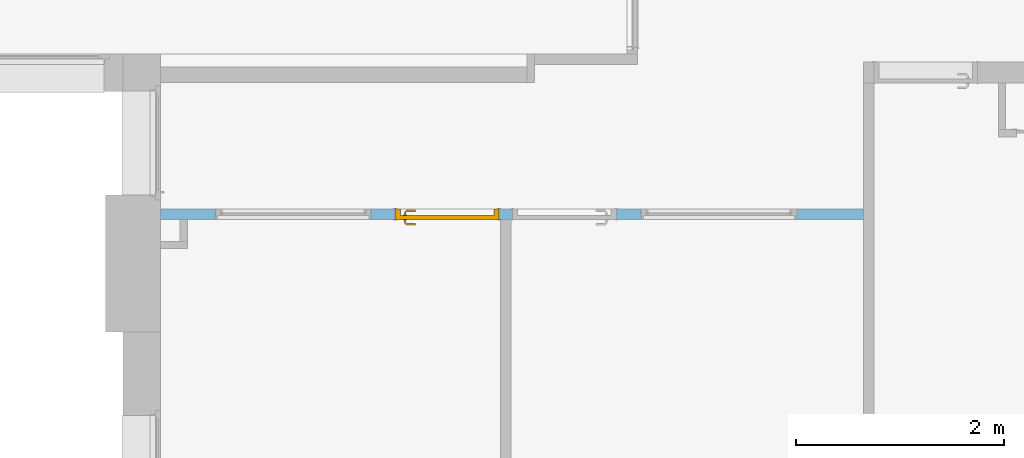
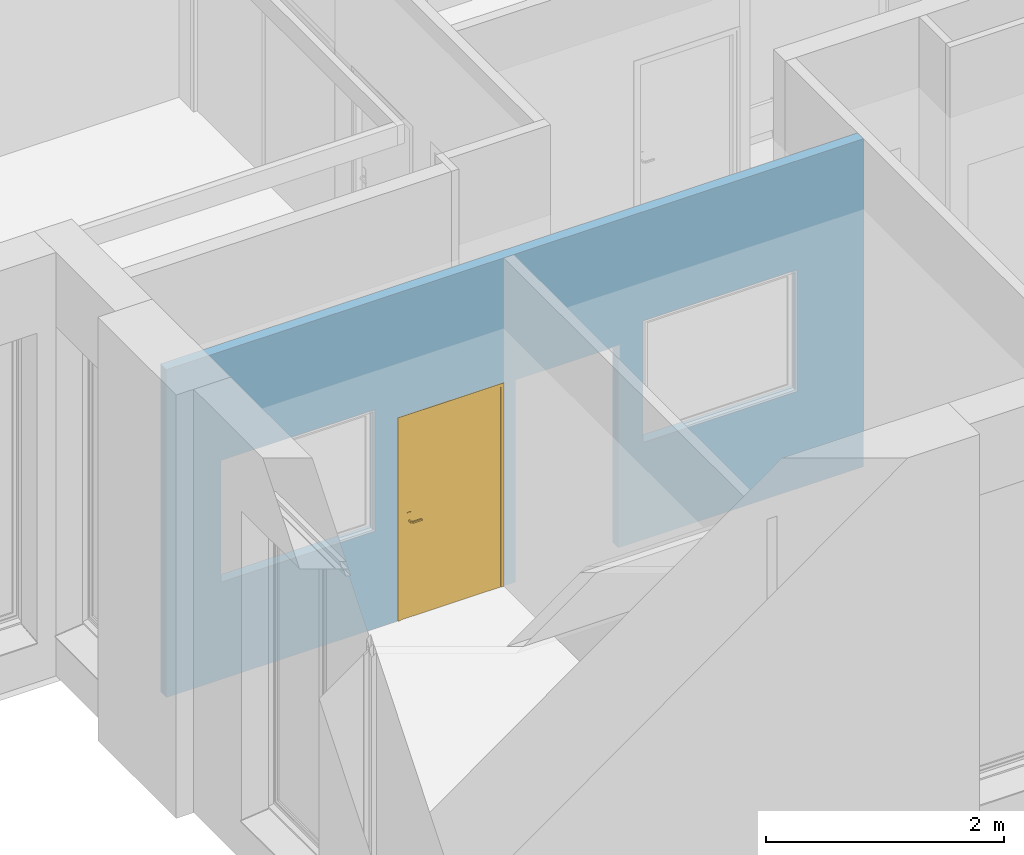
# One storey, part 7 of 32: 1 door, 4 openings, plus 1 element that does not belong to this part.
"""IFC2X3 building model written with IfcOpenShell, lengths in metres."""

from ifc_helpers import new_model, entity, si_unit, converted_unit, derived_unit, direction, frame, frame_2d, origin, place, context, subcontext, project, spatial, polyline, circle_curve, parameter, trimmed, segment, composite_curve, rectangle, outline, extrude, faceted_brep, source, transform, mapped, material, material_list, layer, layer_set, layer_usage, type_object, type_shapes, element, fill, save


model = new_model("IFC2X3")

# Units and contexts
model_context = context("Model", 3, precision=1e-05, world=origin(), true_north=direction((6.12303176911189e-17, 1.0)))
plan_context = context("Plan", 3, precision=1e-05, world=origin(), true_north=direction((6.12303176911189e-17, 1.0)))
body_context = subcontext(model_context, "Body", "Model", "MODEL_VIEW")
ifc_project = project(units=[si_unit("LENGTHUNIT", "METRE"), si_unit("AREAUNIT", "SQUARE_METRE"), si_unit("VOLUMEUNIT", "CUBIC_METRE"), converted_unit("PLANEANGLEUNIT", "DEGREE", entity("IfcRatioMeasure", 0.0174532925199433), si_unit("PLANEANGLEUNIT", "RADIAN"), dimensions=[0, 0, 0, 0, 0, 0, 0]), si_unit("MASSUNIT", "GRAM", prefix="KILO"), derived_unit("MASSDENSITYUNIT", [(si_unit("MASSUNIT", "GRAM", prefix="KILO"), 1), (si_unit("LENGTHUNIT", "METRE"), -3)]), derived_unit("MOMENTOFINERTIAUNIT", [(si_unit("LENGTHUNIT", "METRE"), 4)]), si_unit("TIMEUNIT", "SECOND"), si_unit("FREQUENCYUNIT", "HERTZ"), si_unit("THERMODYNAMICTEMPERATUREUNIT", "DEGREE_CELSIUS"), derived_unit("THERMALTRANSMITTANCEUNIT", [(si_unit("MASSUNIT", "GRAM", prefix="KILO"), 1), (si_unit("THERMODYNAMICTEMPERATUREUNIT", "KELVIN"), -1), (si_unit("TIMEUNIT", "SECOND"), -3)]), derived_unit("VOLUMETRICFLOWRATEUNIT", [(si_unit("LENGTHUNIT", "METRE"), 3), (si_unit("TIMEUNIT", "SECOND"), -1)]), si_unit("ELECTRICCURRENTUNIT", "AMPERE"), si_unit("ELECTRICVOLTAGEUNIT", "VOLT"), si_unit("POWERUNIT", "WATT"), si_unit("FORCEUNIT", "NEWTON", prefix="KILO"), si_unit("ILLUMINANCEUNIT", "LUX"), si_unit("LUMINOUSFLUXUNIT", "LUMEN"), si_unit("LUMINOUSINTENSITYUNIT", "CANDELA"), derived_unit("USERDEFINED", [(si_unit("MASSUNIT", "GRAM", prefix="KILO"), -1), (si_unit("LENGTHUNIT", "METRE"), -2), (si_unit("TIMEUNIT", "SECOND"), 3), (si_unit("LUMINOUSFLUXUNIT", "LUMEN"), 1)]), derived_unit("LINEARVELOCITYUNIT", [(si_unit("LENGTHUNIT", "METRE"), 1), (si_unit("TIMEUNIT", "SECOND"), -1)]), si_unit("PRESSUREUNIT", "PASCAL"), derived_unit("USERDEFINED", [(si_unit("LENGTHUNIT", "METRE"), -2), (si_unit("MASSUNIT", "GRAM", prefix="KILO"), 1), (si_unit("TIMEUNIT", "SECOND"), -2)]), derived_unit("LINEARFORCEUNIT", [(si_unit("MASSUNIT", "GRAM", prefix="KILO"), 1), (si_unit("LENGTHUNIT", "METRE"), 1), (si_unit("TIMEUNIT", "SECOND"), -2), (si_unit("LENGTHUNIT", "METRE"), -1)]), derived_unit("PLANARFORCEUNIT", [(si_unit("MASSUNIT", "GRAM", prefix="KILO"), 1), (si_unit("LENGTHUNIT", "METRE"), 1), (si_unit("TIMEUNIT", "SECOND"), -2), (si_unit("LENGTHUNIT", "METRE"), -2)])], contexts=[model_context, plan_context])

# Site, building, storey
site_placement = place(None, origin())
site = spatial("IfcSite", under=ifc_project, at=site_placement, Name="Default", CompositionType="ELEMENT")
building_placement = place(site_placement, origin())
building = spatial("IfcBuilding", under=site, at=building_placement, CompositionType="ELEMENT")
storey_placement = place(building_placement, origin())
storey = spatial("IfcBuildingStorey", under=building, at=storey_placement, Name="0 Mairie RDC 0.00", CompositionType="ELEMENT", Elevation=-1.94916083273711e-14)

# Wall, openings, door
ifc_material_1 = material(Name="Plâtre")
ifc_layer_1 = layer(ifc_material_1, 0.0125)
ifc_layer_2 = layer(ifc_material_1, 0.0125)
ifc_material_2 = material(Name="Maçonnerie - Isolant")
ifc_layer_3 = layer(ifc_material_2, 0.05)
ifc_layer_4 = layer(ifc_material_1, 0.0125)
ifc_layer_5 = layer(ifc_material_1, 0.0125)
ifc_layer_set = layer_set([ifc_layer_1, ifc_layer_2, ifc_layer_3, ifc_layer_4, ifc_layer_5], Name="Mur de base:A cloison placostil 98 sèche")
ifc_layer_usage = layer_usage(ifc_layer_set, "AXIS2", "NEGATIVE", 0.05)
wall_type = type_object("IfcWallType", Name="Murs : Mur de base : A cloison placostil 98 sèche", PredefinedType="STANDARD", material=ifc_layer_set)
wall_placement = place(storey_placement, frame((-23.7782803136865, -9.49907753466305, 0.0)))
wall = element("IfcWallStandardCase", 1, at=wall_placement, inside=storey, type_object=wall_type, material=ifc_layer_usage, Name="Murs : Mur de base : A cloison placostil 98 sèche", ObjectType="Mur de base:A cloison placostil 98 sèche", context=body_context, shape_type="SweptSolid", body=[
    extrude(rectangle(XDim=6.77283415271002, YDim=0.0999999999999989, at=frame_2d((3.38641707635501, 0.0), x_axis=(-1.0, 0.0))), origin(), (0.0, 0.0, 1.0), 3.37),
])
opening_1_placement = place(wall_placement, frame((4.39112410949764, 0.0499999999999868, 0.0)))
element("IfcOpeningElement", 2, at=opening_1_placement, cuts=wall, Name="Portes : Int. Simple : PP (0.89m x 2.04m):1", ObjectType="Opening", context=body_context, shape_type="SweptSolid", body=[
    extrude(rectangle(XDim=2.075, YDim=1.0, at=frame_2d((1.0375, 0.5), x_axis=(1.0, 0.0))), frame((0.0, 0.0, 0.0), z_axis=(0.0, -1.0, 0.0), x_axis=(0.0, 0.0, 1.0)), (0.0, 0.0, 1.0), 0.1),
])
opening_2_placement = place(wall_placement, frame((3.26112410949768, 0.0499999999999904, 0.0)))
opening_2 = element("IfcOpeningElement", 3, at=opening_2_placement, cuts=wall, Name="Portes : Int. Simple : PP (0.89m x 2.04m):1", ObjectType="Opening", context=body_context, shape_type="SweptSolid", body=[
    extrude(rectangle(XDim=2.075, YDim=1.0, at=frame_2d((1.0375, 0.500000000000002), x_axis=(1.0, 0.0))), frame((0.0, 0.0, 0.0), z_axis=(0.0, -1.0, 0.0), x_axis=(0.0, 0.0, 1.0)), (0.0, 0.0, 1.0), 0.1),
])
opening_3_placement = place(wall_placement, frame((0.527504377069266, -0.0500000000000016, 1.0)))
element("IfcOpeningElement", 4, at=opening_3_placement, cuts=wall, Name="Fenêtres : WINDSOR Window Fixed Signature : Fixed-Window_B02M1S100100-White 1.50x1.00:1", ObjectType="Opening", context=body_context, shape_type="SweptSolid", body=[
    extrude(rectangle(XDim=1.25, YDim=1.5, at=frame_2d((0.624999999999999, 0.75), x_axis=(-1.0, 0.0))), frame((0.0, 0.0, 0.0), z_axis=(0.0, 1.0, 0.0), x_axis=(0.0, 0.0, 1.0)), (0.0, 0.0, 1.0), 0.1),
])
opening_4_placement = place(wall_placement, frame((4.63052662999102, -0.0500000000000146, 1.0)))
element("IfcOpeningElement", 5, at=opening_4_placement, cuts=wall, Name="Fenêtres : WINDSOR Window Fixed Signature : Fixed-Window_B02M1S100100-White 1.50x1.00:1", ObjectType="Opening", context=body_context, shape_type="SweptSolid", body=[
    extrude(rectangle(XDim=1.25, YDim=1.5, at=frame_2d((0.624999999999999, 0.75), x_axis=(-1.0, 0.0))), frame((0.0, 0.0, 0.0), z_axis=(0.0, 1.0, 0.0), x_axis=(0.0, 0.0, 1.0)), (0.0, 0.0, 1.0), 0.1),
])
ifc_material_3 = material(Name="Finition Peinture - Blanc satiné")
ifc_material_4 = material(Name="Bois - Cadre de porte")
ifc_material_list_1 = material_list([ifc_material_3, ifc_material_4])
ifc_material_5 = material(Name="Bois - Panneau de porte")
ifc_material_list_2 = material_list([ifc_material_5, ifc_material_4, ifc_material_3])
door_style = type_object("IfcDoorStyle", Name="Portes : Int. Simple : PP (0.89m x 2.04m)", ConstructionType="NOTDEFINED", OperationType="NOTDEFINED", ParameterTakesPrecedence=False, Sizeable=False, material=ifc_material_list_2)
shared_shape = source(origin(), body_context, "Body", "SolidModel", [
    extrude(outline(composite_curve([segment(polyline([(-0.104999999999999, -0.0199999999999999), (0.104999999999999, -0.0199999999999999)]), True, "CONTINUOUS"), segment(trimmed(circle_curve(frame_2d((0.0703589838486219, 0.0), x_axis=(0.0, 1.0)), 0.0399999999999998), [parameter(240.000000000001)], [parameter(300.0)], True, "PARAMETER"), True, "CONTINUOUS"), segment(polyline([(0.104999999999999, 0.0199999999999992), (-0.105, 0.020000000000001)]), True, "CONTINUOUS"), segment(trimmed(circle_curve(frame_2d((-0.0703589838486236, 0.0), x_axis=(0.0, 1.0)), 0.0399999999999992), [parameter(59.9999999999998)], [parameter(120.0)], True, "PARAMETER"), True, "CONTINUOUS")], self_intersect=False)), frame((0.0949999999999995, -0.00500000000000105, 0.975000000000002), z_axis=(0.0, 1.0, 0.0), x_axis=(0.0, 0.0, 1.0)), (0.0, 0.0, 1.0), 0.005),
    extrude(outline(composite_curve([segment(polyline([(-0.105, -0.0200000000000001), (0.105, -0.0200000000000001)]), True, "CONTINUOUS"), segment(trimmed(circle_curve(frame_2d((0.0703589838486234, 0.0), x_axis=(0.0, -1.0)), 0.0399999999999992), [parameter(59.9999999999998)], [parameter(120.0)], True, "PARAMETER"), True, "CONTINUOUS"), segment(polyline([(0.104999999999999, 0.0200000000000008), (-0.105, 0.0199999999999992)]), True, "CONTINUOUS"), segment(trimmed(circle_curve(frame_2d((-0.0703589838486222, 0.0), x_axis=(0.0, -1.0)), 0.0399999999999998), [parameter(240.0)], [parameter(300.0)], True, "PARAMETER"), True, "CONTINUOUS")], self_intersect=False)), frame((0.0949999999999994, 0.0399999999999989, 0.975000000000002), z_axis=(0.0, 1.0, 0.0), x_axis=(0.0, 0.0, -1.0)), (0.0, 0.0, 1.0), 0.00500000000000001),
    extrude(rectangle(XDim=0.04, YDim=0.93, at=frame_2d((3.46944695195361e-18, 0.0), x_axis=(1.0, 0.0))), frame((0.5, 0.02, 0.0), z_axis=(0.0, 0.0, 1.0), x_axis=(0.0, -1.0, 0.0)), (0.0, 0.0, 1.0), 2.04),
    extrude(outline(polyline([(-1.03750000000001, -0.514999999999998), (1.0525, -0.514999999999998), (1.0525, 0.514999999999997), (-1.0375, 0.514999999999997), (-1.03750000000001, 0.484999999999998), (1.02250000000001, 0.484999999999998), (1.02250000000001, -0.484999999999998), (-1.03750000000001, -0.484999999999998), (-1.03750000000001, -0.514999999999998)])), frame((0.499999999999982, 0.100000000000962, 1.03750000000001), z_axis=(0.0, 1.0, 0.0), x_axis=(0.0, 0.0, 1.0)), (0.0, 0.0, 1.0), 0.00500000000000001),
    extrude(outline(polyline([(-1.03750000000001, -0.514999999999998), (1.0525, -0.514999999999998), (1.0525, 0.514999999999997), (-1.0375, 0.514999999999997), (-1.03750000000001, 0.484999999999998), (1.02250000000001, 0.484999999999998), (1.02250000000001, -0.484999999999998), (-1.03750000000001, -0.484999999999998), (-1.03750000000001, -0.514999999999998)])), frame((0.499999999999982, -0.00500000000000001, 1.03750000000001), z_axis=(0.0, 1.0, 0.0), x_axis=(0.0, 0.0, 1.0)), (0.0, 0.0, 1.0), 0.005),
    faceted_brep([(0.0929747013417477, -0.00500000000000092, 1.00778044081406), (0.097025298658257, -0.0050000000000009, 1.00778044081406), (0.101000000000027, -0.00500000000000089, 1.00699999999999), (0.101000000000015, -0.00500000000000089, 0.993000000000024), (0.0970252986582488, -0.0050000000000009, 0.992219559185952), (0.0929747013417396, -0.00500000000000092, 0.99221955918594), (0.0889999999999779, -0.00500000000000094, 0.992999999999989), (0.0889999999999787, -0.00500000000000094, 1.007), (0.0889999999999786, -0.0326509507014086, 1.007), (0.0929747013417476, -0.0310045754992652, 1.00778044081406), (0.109023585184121, -0.0470534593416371, 1.00778044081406), (0.110701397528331, -0.0430028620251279, 1.00778044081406), (0.0970252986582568, -0.0293267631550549, 1.00778044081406), (0.101000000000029, -0.0276803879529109, 1.007), (0.101000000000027, -0.0276803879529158, 0.993000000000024), (0.0970252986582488, -0.0293267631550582, 0.992219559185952), (0.110701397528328, -0.0430028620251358, 0.992219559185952), (0.109023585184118, -0.0470534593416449, 0.99221955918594), (0.0929747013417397, -0.0310045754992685, 0.99221955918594), (0.0889999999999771, -0.0326509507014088, 0.992999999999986), (0.107377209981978, -0.0510281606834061, 1.007), (0.112347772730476, -0.0390281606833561, 1.007), (0.112347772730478, -0.0390281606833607, 0.993000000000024), (0.107377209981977, -0.0510281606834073, 0.992999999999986), (0.195018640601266, -0.051028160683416, 0.992999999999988), (0.195018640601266, -0.0470534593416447, 0.99221955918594), (0.195018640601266, -0.0430028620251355, 0.992219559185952), (0.195018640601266, -0.0390281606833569, 0.993000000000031), (0.195018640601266, -0.0390281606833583, 1.007), (0.195018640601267, -0.0430028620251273, 1.00778044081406), (0.195018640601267, -0.0470534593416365, 1.00778044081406), (0.195018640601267, -0.0510281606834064, 1.00699999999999), (0.147307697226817, -0.0510281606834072, 1.007), (0.152860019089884, -0.045028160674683, 1.0078786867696), (0.15368320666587, -0.039028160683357, 1.007), (0.153683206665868, -0.0390281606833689, 0.993000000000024), (0.152860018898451, -0.0450281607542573, 0.992121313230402), (0.147307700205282, -0.0510281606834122, 0.992999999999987)], [[[0, 1, 2, 3, 4, 5, 6, 7]], [[8, 9, 0, 7]], [[9, 10, 11, 12, 1, 0]], [[12, 13, 2, 1]], [[3, 2, 13, 14]], [[14, 15, 4, 3]], [[15, 16, 17, 18, 5, 4]], [[18, 19, 6, 5]], [[7, 6, 19, 8]], [[20, 10, 9, 8]], [[11, 21, 13, 12]], [[14, 13, 21, 22]], [[22, 16, 15, 14]], [[17, 23, 19, 18]], [[8, 19, 23, 20]], [[24, 25, 26, 27, 28, 29, 30, 31]], [[32, 30, 33]], [[31, 30, 32]], [[10, 20, 32]], [[33, 34, 11]], [[21, 11, 34]], [[34, 29, 28]], [[30, 29, 33]], [[29, 34, 33]], [[10, 32, 33]], [[10, 33, 11]], [[22, 21, 34, 28, 27, 35]], [[35, 26, 36]], [[37, 36, 25]], [[22, 35, 16]], [[35, 27, 26]], [[24, 37, 25]], [[23, 17, 37]], [[37, 17, 36]], [[17, 16, 36]], [[16, 35, 36]], [[25, 36, 26]], [[20, 23, 37, 24, 31, 32]]]),
    faceted_brep([(0.092974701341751, 0.0449999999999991, 1.00778044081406), (0.0889999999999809, 0.044999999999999, 1.007), (0.0889999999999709, 0.044999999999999, 0.992999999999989), (0.0929747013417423, 0.0449999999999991, 0.99221955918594), (0.0970252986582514, 0.0449999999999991, 0.992219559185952), (0.10100000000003, 0.0449999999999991, 0.993000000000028), (0.101000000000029, 0.0449999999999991, 1.007), (0.0970252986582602, 0.0449999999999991, 1.00778044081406), (0.10100000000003, 0.067485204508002, 0.993000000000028), (0.10100000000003, 0.0674852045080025, 1.007), (0.0970252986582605, 0.0691315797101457, 1.00778044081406), (0.110838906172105, 0.0829451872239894, 1.00778044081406), (0.109161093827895, 0.0869957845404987, 1.00778044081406), (0.0929747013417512, 0.070809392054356, 1.00778044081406), (0.088999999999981, 0.0724557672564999, 1.007), (0.0889999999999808, 0.072455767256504, 0.992999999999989), (0.092974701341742, 0.0708093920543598, 0.99221955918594), (0.109161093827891, 0.0869957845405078, 0.99221955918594), (0.110838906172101, 0.0829451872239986, 0.992219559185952), (0.0970252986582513, 0.0691315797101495, 0.992219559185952), (0.112485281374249, 0.0789704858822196, 0.993000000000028), (0.112485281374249, 0.0789704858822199, 1.007), (0.107514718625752, 0.0909704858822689, 1.007), (0.107514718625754, 0.090970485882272, 0.992999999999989), (0.195045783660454, 0.0789704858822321, 0.993000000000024), (0.195045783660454, 0.0829451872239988, 0.992219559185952), (0.195045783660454, 0.086995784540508, 0.99221955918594), (0.195045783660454, 0.0909704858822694, 0.992999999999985), (0.195045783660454, 0.0909704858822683, 1.007), (0.195045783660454, 0.0869957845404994, 1.00778044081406), (0.195045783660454, 0.0829451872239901, 1.00778044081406), (0.195045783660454, 0.0789704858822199, 1.007), (0.153765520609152, 0.0789704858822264, 0.993000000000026), (0.153765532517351, 0.0789704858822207, 1.007), (0.152942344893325, 0.0849704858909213, 1.0078786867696), (0.147445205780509, 0.0909704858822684, 1.007), (0.147445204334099, 0.0909704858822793, 0.992999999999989), (0.152942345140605, 0.0849704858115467, 0.992121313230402)], [[[0, 1, 2, 3, 4, 5, 6, 7]], [[6, 5, 8, 9]], [[9, 10, 7, 6]], [[10, 11, 12, 13, 0, 7]], [[13, 14, 1, 0]], [[2, 1, 14, 15]], [[15, 16, 3, 2]], [[16, 17, 18, 19, 4, 3]], [[19, 8, 5, 4]], [[9, 8, 20, 21]], [[21, 11, 10, 9]], [[12, 22, 14, 13]], [[15, 14, 22, 23]], [[23, 17, 16, 15]], [[18, 20, 8, 19]], [[24, 25, 26, 27, 28, 29, 30, 31]], [[21, 20, 32, 24, 31, 33]], [[33, 30, 34]], [[35, 34, 29]], [[21, 33, 11]], [[33, 31, 30]], [[28, 35, 29]], [[22, 12, 35]], [[35, 12, 34]], [[12, 11, 34]], [[11, 33, 34]], [[29, 34, 30]], [[22, 35, 28, 27, 36, 23]], [[36, 26, 37]], [[27, 26, 36]], [[17, 23, 36]], [[37, 32, 18]], [[20, 18, 32]], [[32, 25, 24]], [[26, 25, 37]], [[25, 32, 37]], [[17, 36, 37]], [[17, 37, 18]]]),
    faceted_brep([(0.0, 0.0, 0.0), (0.0, 0.100000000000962, 0.0), (0.0499999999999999, 0.100000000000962, 0.0), (0.0499999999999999, 0.040000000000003, 0.0), (0.0349999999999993, 0.040000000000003, 0.0), (0.0349999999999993, 0.0, 0.0), (0.0, 0.0, 2.07500000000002), (0.0, 0.100000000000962, 2.07500000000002), (1.0, 0.100000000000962, 2.07500000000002), (1.0, 0.100000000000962, 0.0), (0.95, 0.100000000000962, 0.0), (0.95, 0.100000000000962, 2.025), (0.05, 0.100000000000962, 2.025), (0.05, 0.040000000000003, 2.025), (0.95, 0.040000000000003, 2.025), (0.95, 0.040000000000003, 0.0), (0.965, 0.040000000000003, 0.0), (0.965, 0.040000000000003, 2.04), (0.0349999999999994, 0.040000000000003, 2.04), (0.0349999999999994, 0.0, 2.04), (0.965, 0.0, 2.04), (0.965, 0.0, 0.0), (1.0, 0.0, 0.0), (1.0, 0.0, 2.07500000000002)], [[[0, 1, 2, 3, 4, 5]], [[1, 0, 6, 7]], [[2, 1, 7, 8, 9, 10, 11, 12]], [[3, 2, 12, 13]], [[4, 3, 13, 14, 15, 16, 17, 18]], [[5, 4, 18, 19]], [[0, 5, 19, 20, 21, 22, 23, 6]], [[8, 23, 22, 9]], [[22, 21, 16, 15, 10, 9]], [[14, 11, 10, 15]], [[20, 17, 16, 21]], [[7, 6, 23, 8]], [[13, 12, 11, 14]], [[19, 18, 17, 20]]]),
])
type_shapes(door_style, [shared_shape])
door_placement = place(opening_2_placement, frame((-1.0, -0.0999999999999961, 0.0)))
door = element("IfcDoor", 6, at=door_placement, inside=storey, type_object=door_style, material=ifc_material_list_1, Name="Portes : Int. Simple : PP (0.89m x 2.04m)", ObjectType="Int. Simple:PP (0.89m x 2.04m)", OverallHeight=2.075, OverallWidth=1.0, context=body_context, shape_type="MappedRepresentation", body=[
    mapped(shared_shape, transform((0.0, 0.0, 0.0), scale=1.0)),
])
fill(opening_2, door)

save(model, "model.ifc")
